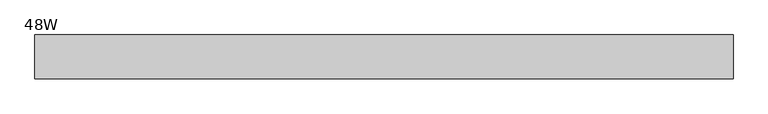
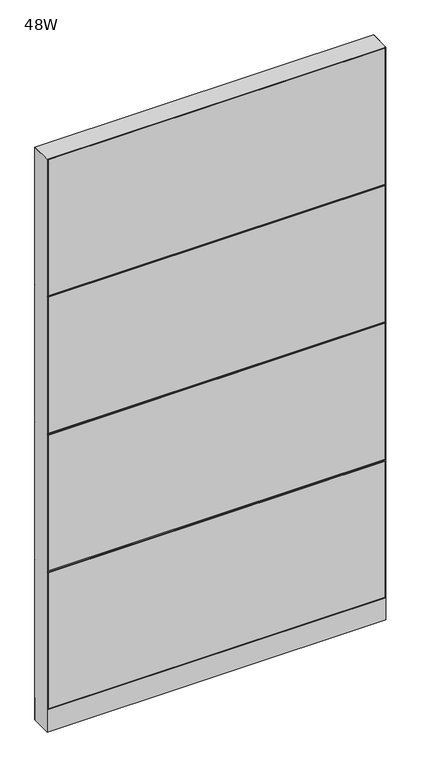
"""IFC4 building model written with IfcOpenShell, lengths in millimetres: furniture geometry, Steelcase - Montage - Frame - 86H - Enhanced Monolithic - Base Cavity : 48W."""

from ifc_helpers import new_model, si_unit, point, frame, frame_2d, origin, origin_with_axes, place, context, project, spatial, polyline, circle_curve, trimmed, segment, composite_curve, outline, extrude, faceted_brep, source, transform, mapped, element, save


def furniture_48w_94457da2(model_context):
    return source(origin(), model_context, "Body", "SolidModel", [
        faceted_brep([(-5.4e-06, 38.102627, 1136.6500027), (6.3499917, 31.7526299, 1142.9999997), (1212.8500047, 31.7526299, 1142.9999997), (1219.2, 38.1026253, 1136.6500044), (1212.8500047, 31.7526299, 1130.3000003), (6.3499917, 31.7526299, 1130.3000003)], [[[0, 1, 2, 3]], [[3, 4, 5, 0]], [[1, 5, 4, 2]], [[0, 5, 1]], [[2, 4, 3]]]),
        faceted_brep([(-5.4e-06, 38.102627, 612.7750027), (6.3499917, 31.7526299, 619.1249997), (1212.8500047, 31.7526299, 619.1249997), (1219.2, 38.1026253, 612.7750044), (1212.8500047, 31.7526299, 606.4250003), (6.3499917, 31.7526299, 606.4250003)], [[[0, 1, 2, 3]], [[3, 4, 5, 0]], [[1, 5, 4, 2]], [[0, 5, 1]], [[2, 4, 3]]]),
        faceted_brep([(-5.4e-06, 38.102627, 1660.5250027), (6.3499917, 31.7526299, 1666.8749997), (1212.8500047, 31.7526299, 1666.8749997), (1219.2, 38.1026253, 1660.5250044), (1212.8500047, 31.7526299, 1654.1750003), (6.3499917, 31.7526299, 1654.1750003)], [[[0, 1, 2, 3]], [[3, 4, 5, 0]], [[1, 5, 4, 2]], [[0, 5, 1]], [[2, 4, 3]]]),
        extrude(outline(polyline([(3.175, 31.7500194), (3.175, 38.1000194), (1216.025, 38.1000194), (1216.025, 31.7500194), (3.175, 31.7500194)])), frame((0.0, 0.0, 1663.7), z_axis=(0.0, 0.0, 1.0), x_axis=(1.0, 0.0, 0.0)), (0.0, 0.0, 1.0), 517.525),
        extrude(outline(polyline([(3.175, 31.7500194), (3.175, 38.1000194), (1216.025, 38.1000194), (1216.025, 31.7500194), (3.175, 31.7500194)])), frame((0.0, 0.0, 92.075), z_axis=(0.0, 0.0, 1.0), x_axis=(1.0, 0.0, 0.0)), (0.0, 0.0, 1.0), 517.525),
        extrude(outline(polyline([(3.175, 31.7500194), (3.175, 38.1000194), (1216.025, 38.1000194), (1216.025, 31.7500194), (3.175, 31.7500194)])), frame((0.0, 0.0, 615.95), z_axis=(0.0, 0.0, 1.0), x_axis=(1.0, 0.0, 0.0)), (0.0, 0.0, 1.0), 517.525),
        extrude(outline(polyline([(3.175, 31.7500194), (3.175, 38.1000194), (1216.025, 38.1000194), (1216.025, 31.7500194), (3.175, 31.7500194)])), frame((0.0, 0.0, 1139.825), z_axis=(0.0, 0.0, 1.0), x_axis=(1.0, 0.0, 0.0)), (0.0, 0.0, 1.0), 517.525),
        faceted_brep([(0.0, -38.1026297, 1136.65), (1219.2, -38.1026297, 1136.65), (1212.8500047, -31.7526299, 1142.9999997), (6.3499917, -31.7526299, 1142.9999997), (6.3499917, -31.7526299, 1130.3000003), (1212.8500047, -31.7526299, 1130.3000003)], [[[0, 1, 2, 3]], [[1, 0, 4, 5]], [[3, 2, 5, 4]], [[0, 3, 4]], [[2, 1, 5]]]),
        faceted_brep([(0.0, -38.1026297, 612.775), (1219.2, -38.1026297, 612.775), (1212.8500047, -31.7526299, 619.1249997), (6.3499917, -31.7526299, 619.1249997), (6.3499917, -31.7526299, 606.4250003), (1212.8500047, -31.7526299, 606.4250003)], [[[0, 1, 2, 3]], [[1, 0, 4, 5]], [[3, 2, 5, 4]], [[0, 3, 4]], [[2, 1, 5]]]),
        faceted_brep([(0.0, -38.1026297, 1660.525), (1219.2, -38.1026297, 1660.525), (1212.8500047, -31.7526299, 1666.8749997), (6.3499917, -31.7526299, 1666.8749997), (6.3499917, -31.7526299, 1654.1750003), (1212.8500047, -31.7526299, 1654.1750003)], [[[0, 1, 2, 3]], [[1, 0, 4, 5]], [[3, 2, 5, 4]], [[0, 3, 4]], [[2, 1, 5]]]),
        extrude(outline(polyline([(3.175, -31.7500194), (1216.025, -31.7500194), (1216.025, -38.1000194), (3.175, -38.1000194), (3.175, -31.7500194)])), frame((0.0, 0.0, 1663.7), z_axis=(0.0, 0.0, 1.0), x_axis=(1.0, 0.0, 0.0)), (0.0, 0.0, 1.0), 517.525),
        extrude(outline(polyline([(3.175, -31.7500194), (1216.025, -31.7500194), (1216.025, -38.1000194), (3.175, -38.1000194), (3.175, -31.7500194)])), frame((0.0, 0.0, 92.075), z_axis=(0.0, 0.0, 1.0), x_axis=(1.0, 0.0, 0.0)), (0.0, 0.0, 1.0), 517.525),
        extrude(outline(polyline([(3.175, -31.7500194), (1216.025, -31.7500194), (1216.025, -38.1000194), (3.175, -38.1000194), (3.175, -31.7500194)])), frame((0.0, 0.0, 615.95), z_axis=(0.0, 0.0, 1.0), x_axis=(1.0, 0.0, 0.0)), (0.0, 0.0, 1.0), 517.525),
        extrude(outline(polyline([(3.175, -31.7500194), (1216.025, -31.7500194), (1216.025, -38.1000194), (3.175, -38.1000194), (3.175, -31.7500194)])), frame((0.0, 0.0, 1139.825), z_axis=(0.0, 0.0, 1.0), x_axis=(1.0, 0.0, 0.0)), (0.0, 0.0, 1.0), 517.525),
        extrude(outline(polyline([(6.350003, -31.7499985), (1212.849997, -31.7499985), (1219.2, -38.1000015), (0.0, -38.1000015), (6.350003, -31.7499985)])), frame((0.0, 0.0, 4.064), z_axis=(0.0, 0.0, 1.0), x_axis=(1.0, 0.0, 0.0)), (0.0, 0.0, 1.0), 84.835997),
        extrude(outline(polyline([(6.3500002, 31.7500017), (0.0, 38.1000015), (1219.2, 38.1000015), (1212.8500002, 31.7500017), (6.3500002, 31.7500017)])), frame((0.0, 0.0, 4.064), z_axis=(0.0, 0.0, 1.0), x_axis=(1.0, 0.0, 0.0)), (0.0, 0.0, 1.0), 84.835997),
        faceted_brep([(1219.2, -38.1000015, 2184.4), (0.0, -38.1000015, 2184.4), (6.3500484, -31.749953, 2178.0499516), (1212.8499516, -31.749953, 2178.0499516), (6.3500484, 31.749953, 2178.0499516), (1212.8499516, 31.749953, 2178.0499516), (0.0, 38.1000015, 2184.4), (1219.2, 38.1000015, 2184.4)], [[[0, 1, 2, 3]], [[3, 2, 4, 5]], [[6, 7, 5, 4]], [[1, 0, 7, 6]], [[2, 1, 6, 4]], [[0, 3, 5, 7]]]),
        extrude(outline(composite_curve([segment(trimmed(circle_curve(frame_2d((44.45, 0.0)), 15.24), [point((29.21, 0.0))], [point((59.69, 0.0))], False, "CARTESIAN"), True, "CONTINUOUS"), segment(trimmed(circle_curve(frame_2d((44.45, 0.0)), 15.24), [point((59.69, 0.0))], [point((29.21, 0.0))], False, "CARTESIAN"), True, "CONTINUOUS")], self_intersect=False)), origin_with_axes(), (0.0, 0.0, 1.0), 4.064),
        extrude(outline(composite_curve([segment(trimmed(circle_curve(frame_2d((1174.75, 0.0)), 15.24), [point((1159.51, 0.0))], [point((1189.99, 0.0))], False, "CARTESIAN"), True, "CONTINUOUS"), segment(trimmed(circle_curve(frame_2d((1174.75, 0.0)), 15.24), [point((1189.99, 0.0))], [point((1159.51, 0.0))], False, "CARTESIAN"), True, "CONTINUOUS")], self_intersect=False)), origin_with_axes(), (0.0, 0.0, 1.0), 4.064),
        faceted_brep([(1219.2, -38.1000106, 4.064), (1219.2, 38.1000015, 4.064), (1219.2, 38.1000015, 2184.4), (1219.2, -38.1000106, 2184.3999637), (0.0, 38.1000015, 4.064), (0.0, -38.1000015, 4.064), (0.0, -38.1000015, 2184.4), (0.0, 38.1000015, 2184.4), (1212.8499879, 31.7500017, 606.425), (6.35, 31.7500017, 606.425), (6.3499998, 31.7500017, 619.125), (1212.8499879, 31.7500017, 619.125), (6.35, -31.7499985, 619.125), (1212.8499879, -31.7499985, 619.125), (6.350003, -31.7499985, 606.425), (1212.8499879, -31.7499985, 606.425), (1212.8499879, 31.7500017, 1130.3), (6.35, 31.7500017, 1130.3), (6.3499998, 31.7500017, 1143.0), (1212.8499879, 31.7500017, 1143.0), (6.35, -31.7499985, 1143.0), (1212.8499879, -31.7499985, 1143.0), (6.350003, -31.7499985, 1130.3), (1212.8499879, -31.7499985, 1130.3), (1212.8499879, 31.7500017, 1654.175), (6.35, 31.7500017, 1654.175), (6.3499998, 31.7500017, 1666.875), (1212.8499879, 31.7500017, 1666.875), (6.35, -31.7499985, 1666.875), (1212.8499879, -31.7499985, 1666.875), (6.350003, -31.7499985, 1654.175), (1212.8499879, -31.7499985, 1654.175), (6.35, 31.7500015, 4.064), (6.35, -31.7500015, 4.064), (1212.8499879, 31.7499894, 4.064), (1212.8499879, -31.7499985, 4.064), (6.35, 31.7500015, 2178.05), (6.35, -31.7500015, 2178.05), (1212.8499879, -31.7499985, 2178.0499516), (1212.8499879, 31.7499895, 2178.0499516)], [[[0, 1, 2, 3]], [[4, 5, 6, 7]], [[8, 9, 10, 11]], [[11, 10, 12, 13]], [[13, 12, 14, 15]], [[9, 8, 15, 14]], [[16, 17, 18, 19]], [[19, 18, 20, 21]], [[21, 20, 22, 23]], [[17, 16, 23, 22]], [[24, 25, 26, 27]], [[27, 26, 28, 29]], [[29, 28, 30, 31]], [[25, 24, 31, 30]], [[32, 33, 5, 4]], [[34, 1, 0, 35]], [[32, 4, 7, 36, 26, 25, 18, 17, 10, 9]], [[5, 33, 14, 12, 22, 20, 30, 28, 37, 6]], [[33, 32, 9, 14]], [[10, 17, 22, 12]], [[18, 25, 30, 20]], [[28, 26, 36, 37]], [[34, 35, 15, 8]], [[16, 11, 13, 23]], [[24, 19, 21, 31]], [[27, 29, 38, 39]], [[35, 0, 3, 38, 29, 31, 21, 23, 13, 15]], [[1, 34, 8, 11, 16, 19, 24, 27, 39, 2]], [[7, 6, 37, 36]], [[3, 2, 39, 38]]]),
    ])


if __name__ == "__main__":
    model = new_model("IFC4")
    model_context = context("Model", 3, world=origin())
    ifc_project = project(units=[si_unit("LENGTHUNIT", "METRE", prefix="MILLI")], contexts=[model_context])
    site = spatial("IfcSite", under=ifc_project)
    building = spatial("IfcBuilding", under=site)
    placement = place(None, origin())
    furniture_48w_shape = furniture_48w_94457da2(model_context)
    element("IfcFurniture", 1, ObjectType="Steelcase - Montage - Frame - 86H - Enhanced Monolithic - Base Cavity : 48W", at=placement, inside=building, context=model_context, shape_type="MappedRepresentation", body=[
        mapped(furniture_48w_shape, transform((0.0, 0.0, 0.0), x_axis=(1.0, 0.0, 0.0), y_axis=(0.0, 1.0, 0.0), z_axis=(0.0, 0.0, 1.0))),
    ])
    save(model, "model.ifc")
